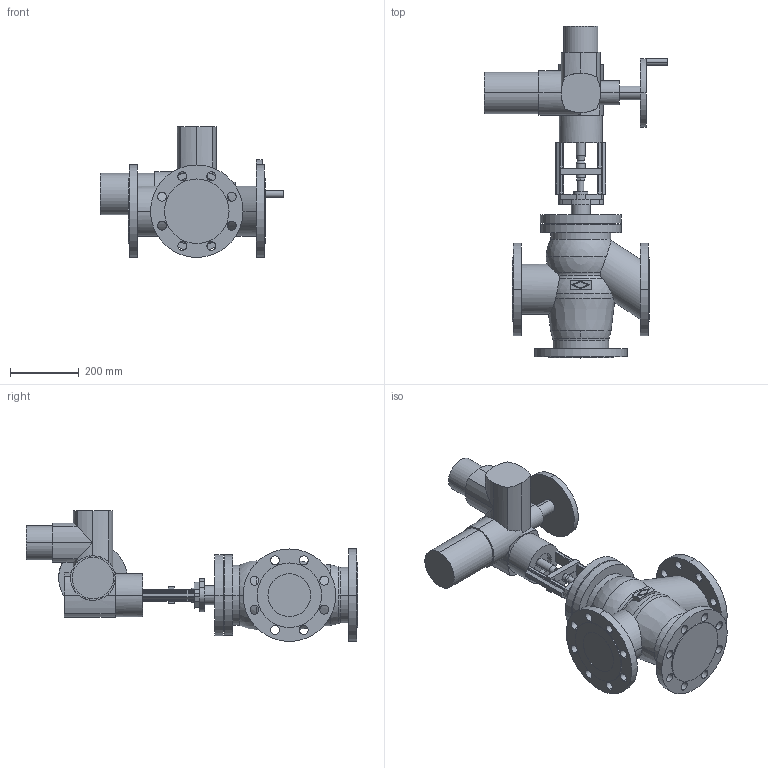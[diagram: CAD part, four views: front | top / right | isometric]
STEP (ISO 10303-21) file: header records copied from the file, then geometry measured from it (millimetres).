
FILE_DESCRIPTION(('OneSpaceDesigner STEP Export'),'2;1');
FILE_NAME('c000003185.stp','2007-01-24T11:15:39',(''),(''),'OneSpace Designer STEP processor for AP214 (Solid Model)','OneSpace Designer 14.00B 27-May-2006 (C) CoCreate Software GmbH','');
FILE_SCHEMA(('AUTOMOTIVE_DESIGN { 1 0 10303 214 1 1 1 1 }'));
Length unit declared in the file: millimetre
Products named in the file (2): 1; 2
Bounding box: 536 x 968 x 382 mm (x, y, z)
Volume: 29460089.8 mm3; surface area: 1315456.5 mm2
Topology: 2 solids, 2 shells, 322 faces, 835 edges, 528 vertices
Faces by surface type: cylinder 166, plane 134, torus 8, sphere 8, cone 6
Entity records: 9372 total; most frequent: CARTESIAN_POINT 2117, ORIENTED_EDGE 1654, DIRECTION 1324, EDGE_CURVE 827, VERTEX_POINT 528, AXIS2_PLACEMENT_3D 464, EDGE_LOOP 401, VECTOR 396
